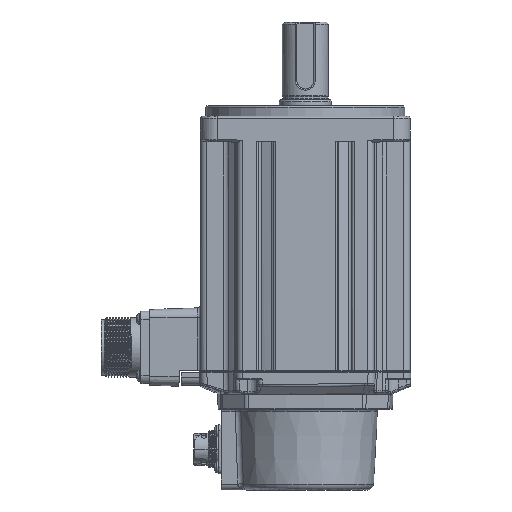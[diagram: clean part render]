
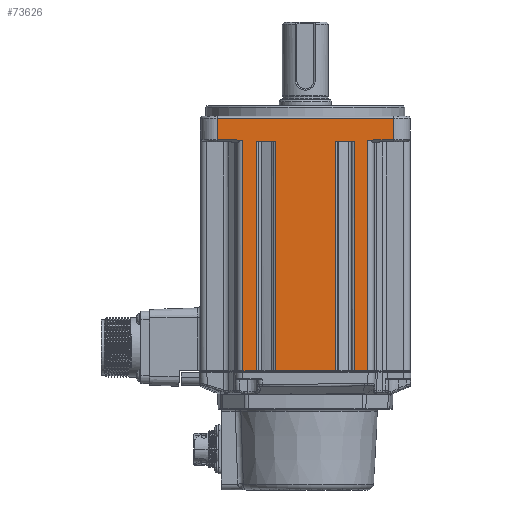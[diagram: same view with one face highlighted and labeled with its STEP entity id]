
A CAD part, left-side view. The second image highlights one B-rep face of the part: STEP entity #73626.
In plain terms, the highlighted planar face has unit normal (-1, 0, 0).
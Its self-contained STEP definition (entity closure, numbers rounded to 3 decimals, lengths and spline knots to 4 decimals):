
#23576=DIRECTION('',(0.,1.,0.));
#23577=VECTOR('',#23576,3.3071);
#23578=CARTESIAN_POINT('',(0.0464,0.3614,
-1.8151));
#23579=LINE('',#23578,#23577);
#24902=DIRECTION('',(0.,0.,1.));
#24903=VECTOR('',#24902,4.3071);
#24904=CARTESIAN_POINT('',(0.0464,2.9323,
-6.5552));
#24905=LINE('',#24904,#24903);
#24925=DIRECTION('',(0.,-1.,0.));
#24926=VECTOR('',#24925,0.3583);
#24927=CARTESIAN_POINT('',(0.0464,2.9323,
-2.2481));
#24928=LINE('',#24927,#24926);
#24939=DIRECTION('',(0.,-1.,-0.017));
#24940=VECTOR('',#24939,0.4823);
#24941=CARTESIAN_POINT('',(0.0464,3.6685,
-2.2143));
#24942=LINE('',#24941,#24940);
#24946=DIRECTION('',(0.,-1.,0.017));
#24947=VECTOR('',#24946,0.4823);
#24948=CARTESIAN_POINT('',(0.0464,0.8436,
-2.2227));
#24949=LINE('',#24948,#24947);
#24953=DIRECTION('',(0.,-1.,0.));
#24954=VECTOR('',#24953,0.254);
#24955=CARTESIAN_POINT('',(0.0464,1.0976,
-6.5552));
#24956=LINE('',#24955,#24954);
#24960=DIRECTION('',(0.,-1.,0.));
#24961=VECTOR('',#24960,1.1181);
#24962=CARTESIAN_POINT('',(0.0464,2.574,
-6.5552));
#24963=LINE('',#24962,#24961);
#24967=DIRECTION('',(0.,-1.,0.));
#24968=VECTOR('',#24967,0.254);
#24969=CARTESIAN_POINT('',(0.0464,3.1863,
-6.5552));
#24970=LINE('',#24969,#24968);
#25068=CARTESIAN_POINT('',(0.0464,3.6685,
-2.2143));
#25088=DIRECTION('',(0.,0.,-1.));
#25089=VECTOR('',#25088,0.3992);
#25090=CARTESIAN_POINT('',(0.0464,3.6685,
-1.8151));
#25091=LINE('',#25090,#25089);
#25163=DIRECTION('',(0.,0.,-1.));
#25164=VECTOR('',#25163,4.3325);
#25165=CARTESIAN_POINT('',(0.0464,3.1863,
-2.2227));
#25166=LINE('',#25165,#25164);
#25264=DIRECTION('',(0.,0.,1.));
#25265=VECTOR('',#25264,0.3992);
#25266=CARTESIAN_POINT('',(0.0464,0.3614,
-2.2143));
#25267=LINE('',#25266,#25265);
#25326=DIRECTION('',(0.,0.,1.));
#25327=VECTOR('',#25326,4.3325);
#25328=CARTESIAN_POINT('',(0.0464,0.8436,
-6.5552));
#25329=LINE('',#25328,#25327);
#26102=DIRECTION('',(0.,0.,-1.));
#26103=VECTOR('',#26102,4.3071);
#26104=CARTESIAN_POINT('',(0.0464,1.0976,
-2.2481));
#26105=LINE('',#26104,#26103);
#26148=DIRECTION('',(0.,-1.,0.));
#26149=VECTOR('',#26148,0.3583);
#26150=CARTESIAN_POINT('',(0.0464,1.4559,
-2.2481));
#26151=LINE('',#26150,#26149);
#26169=DIRECTION('',(0.,0.,1.));
#26170=VECTOR('',#26169,4.3071);
#26171=CARTESIAN_POINT('',(0.0464,1.4559,
-6.5552));
#26172=LINE('',#26171,#26170);
#26232=DIRECTION('',(0.,0.,-1.));
#26233=VECTOR('',#26232,4.3071);
#26234=CARTESIAN_POINT('',(0.0464,2.574,
-2.2481));
#26235=LINE('',#26234,#26233);
#65421=VERTEX_POINT('',#25068);
#65425=CARTESIAN_POINT('',(0.0464,3.6685,
-1.8151));
#65426=VERTEX_POINT('',#65425);
#65427=CARTESIAN_POINT('',(0.0464,3.1863,
-2.2227));
#65428=VERTEX_POINT('',#65427);
#65429=CARTESIAN_POINT('',(0.0464,0.3614,
-1.8151));
#65430=VERTEX_POINT('',#65429);
#65431=CARTESIAN_POINT('',(0.0464,0.3614,
-2.2143));
#65432=VERTEX_POINT('',#65431);
#65433=CARTESIAN_POINT('',(0.0464,0.8436,
-2.2227));
#65434=VERTEX_POINT('',#65433);
#65435=CARTESIAN_POINT('',(0.0464,0.8436,
-6.5552));
#65436=VERTEX_POINT('',#65435);
#65437=CARTESIAN_POINT('',(0.0464,1.0976,
-2.2481));
#65438=CARTESIAN_POINT('',(0.0464,1.0976,
-6.5552));
#65439=VERTEX_POINT('',#65437);
#65440=VERTEX_POINT('',#65438);
#65441=CARTESIAN_POINT('',(0.0464,1.4559,
-2.2481));
#65442=VERTEX_POINT('',#65441);
#65443=CARTESIAN_POINT('',(0.0464,1.4559,
-6.5552));
#65444=VERTEX_POINT('',#65443);
#65445=CARTESIAN_POINT('',(0.0464,2.574,
-2.2481));
#65446=CARTESIAN_POINT('',(0.0464,2.574,
-6.5552));
#65447=VERTEX_POINT('',#65445);
#65448=VERTEX_POINT('',#65446);
#65449=CARTESIAN_POINT('',(0.0464,2.9323,
-2.2481));
#65450=VERTEX_POINT('',#65449);
#65451=CARTESIAN_POINT('',(0.0464,2.9323,
-6.5552));
#65452=VERTEX_POINT('',#65451);
#65453=CARTESIAN_POINT('',(0.0464,3.1863,
-6.5552));
#65454=VERTEX_POINT('',#65453);
#73593=CARTESIAN_POINT('',(0.0464,2.015,
-4.1851));
#73594=DIRECTION('',(1.,0.,0.));
#73595=DIRECTION('',(0.,-1.,0.));
#73596=AXIS2_PLACEMENT_3D('',#73593,#73594,#73595);
#73597=PLANE('',#73596);
#73599=ORIENTED_EDGE('',*,*,#73598,.F.);
#73601=ORIENTED_EDGE('',*,*,#73600,.F.);
#73602=ORIENTED_EDGE('',*,*,#72831,.F.);
#73604=ORIENTED_EDGE('',*,*,#73603,.F.);
#73606=ORIENTED_EDGE('',*,*,#73605,.F.);
#73608=ORIENTED_EDGE('',*,*,#73607,.F.);
#73609=ORIENTED_EDGE('',*,*,#73219,.F.);
#73611=ORIENTED_EDGE('',*,*,#73610,.F.);
#73613=ORIENTED_EDGE('',*,*,#73612,.F.);
#73615=ORIENTED_EDGE('',*,*,#73614,.F.);
#73616=ORIENTED_EDGE('',*,*,#73203,.F.);
#73618=ORIENTED_EDGE('',*,*,#73617,.F.);
#73619=ORIENTED_EDGE('',*,*,#73576,.F.);
#73620=ORIENTED_EDGE('',*,*,#73550,.F.);
#73621=ORIENTED_EDGE('',*,*,#73336,.F.);
#73623=ORIENTED_EDGE('',*,*,#73622,.F.);
#73624=EDGE_LOOP('',(#73599,#73601,#73602,#73604,#73606,#73608,#73609,#73611,
#73613,#73615,#73616,#73618,#73619,#73620,#73621,#73623));
#73625=FACE_OUTER_BOUND('',#73624,.F.);
#73626=ADVANCED_FACE('',(#73625),#73597,.F.);
#72831=EDGE_CURVE('',#65430,#65426,#23579,.T.);
#73203=EDGE_CURVE('',#65448,#65444,#24963,.T.);
#73219=EDGE_CURVE('',#65440,#65436,#24956,.T.);
#73336=EDGE_CURVE('',#65454,#65452,#24970,.T.);
#73550=EDGE_CURVE('',#65452,#65450,#24905,.T.);
#73576=EDGE_CURVE('',#65450,#65447,#24928,.T.);
#73598=EDGE_CURVE('',#65421,#65428,#24942,.T.);
#73600=EDGE_CURVE('',#65426,#65421,#25091,.T.);
#73603=EDGE_CURVE('',#65432,#65430,#25267,.T.);
#73605=EDGE_CURVE('',#65434,#65432,#24949,.T.);
#73607=EDGE_CURVE('',#65436,#65434,#25329,.T.);
#73610=EDGE_CURVE('',#65439,#65440,#26105,.T.);
#73612=EDGE_CURVE('',#65442,#65439,#26151,.T.);
#73614=EDGE_CURVE('',#65444,#65442,#26172,.T.);
#73617=EDGE_CURVE('',#65447,#65448,#26235,.T.);
#73622=EDGE_CURVE('',#65428,#65454,#25166,.T.);
